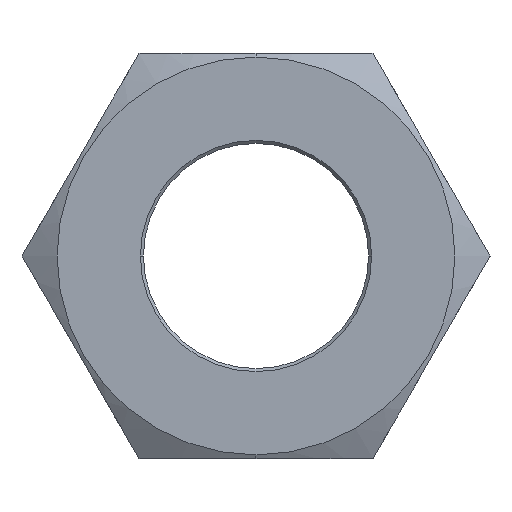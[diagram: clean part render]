
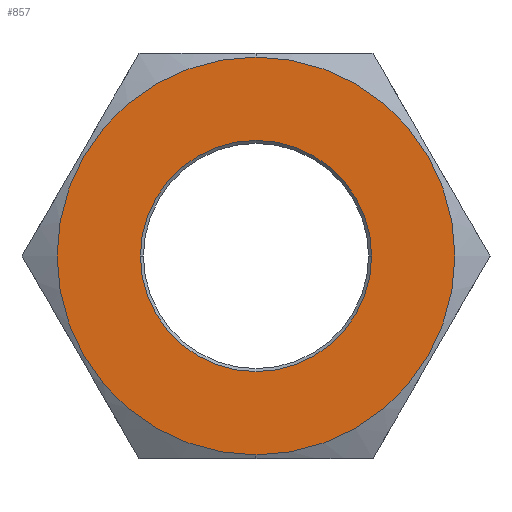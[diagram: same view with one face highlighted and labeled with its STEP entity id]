
A CAD part, left-side view. The second image highlights one B-rep face of the part: STEP entity #857.
In plain terms, the highlighted planar face has unit normal (-1, 0, 0) as drawn and (0, 0, 1) by its records, which use the part's own axes.
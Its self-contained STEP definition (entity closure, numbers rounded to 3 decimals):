
#141=CARTESIAN_POINT('',(13.25,0.0,8.75));
#142=VERTEX_POINT('',#141);
#151=CARTESIAN_POINT('',(-13.25,0.,8.75));
#152=VERTEX_POINT('',#151);
#153=CARTESIAN_POINT('',(0.,0.0,8.75));
#154=DIRECTION('',(0.0,0.0,1.0));
#155=DIRECTION('',(1.0,0.0,0.0));
#156=AXIS2_PLACEMENT_3D('',#153,#154,#155);
#157=CIRCLE('',#156,13.25);
#158=EDGE_CURVE('',#152,#142,#157,.T.);
#471=CARTESIAN_POINT('',(0.,7.7,8.75));
#472=VERTEX_POINT('',#471);
#480=CARTESIAN_POINT('',(0.,-7.7,8.75));
#481=VERTEX_POINT('',#480);
#488=CARTESIAN_POINT('',(0.,0.,8.75));
#489=DIRECTION('',(0.0,0.0,-1.0));
#490=DIRECTION('',(0.0,1.0,0.0));
#491=AXIS2_PLACEMENT_3D('',#488,#489,#490);
#492=CIRCLE('',#491,7.7);
#493=EDGE_CURVE('',#472,#481,#492,.T.);
#504=CARTESIAN_POINT('',(0.,0.,8.75));
#505=DIRECTION('',(0.0,0.0,-1.0));
#506=DIRECTION('',(0.0,1.0,0.0));
#507=AXIS2_PLACEMENT_3D('',#504,#505,#506);
#508=CIRCLE('',#507,7.7);
#509=EDGE_CURVE('',#481,#472,#508,.T.);
#728=CARTESIAN_POINT('',(0.,0.0,8.75));
#729=DIRECTION('',(0.0,0.0,1.0));
#730=DIRECTION('',(1.0,0.0,0.0));
#731=AXIS2_PLACEMENT_3D('',#728,#729,#730);
#732=CIRCLE('',#731,13.25);
#733=EDGE_CURVE('',#142,#152,#732,.T.);
#844=CARTESIAN_POINT('',(0.0,0.,8.75));
#845=DIRECTION('',(0.0,0.0,1.0));
#846=DIRECTION('',(1.0,0.0,0.0));
#847=AXIS2_PLACEMENT_3D('',#844,#845,#846);
#848=PLANE('',#847);
#849=ORIENTED_EDGE('',*,*,#733,.T.);
#850=ORIENTED_EDGE('',*,*,#158,.T.);
#851=EDGE_LOOP('',(#849,#850));
#852=FACE_OUTER_BOUND('',#851,.T.);
#853=ORIENTED_EDGE('',*,*,#493,.T.);
#854=ORIENTED_EDGE('',*,*,#509,.T.);
#855=EDGE_LOOP('',(#853,#854));
#856=FACE_BOUND('',#855,.T.);
#857=ADVANCED_FACE('',(#852,#856),#848,.T.);
